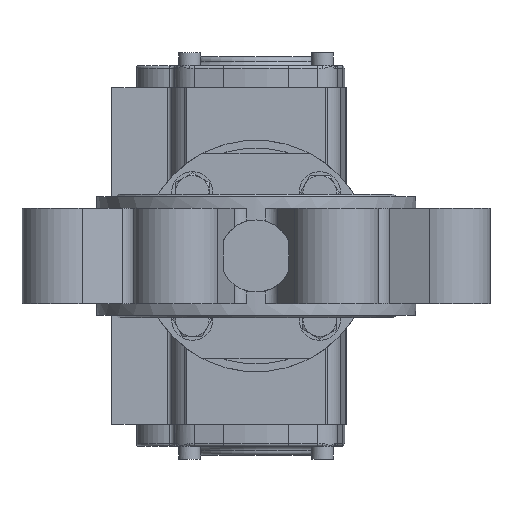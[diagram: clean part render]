
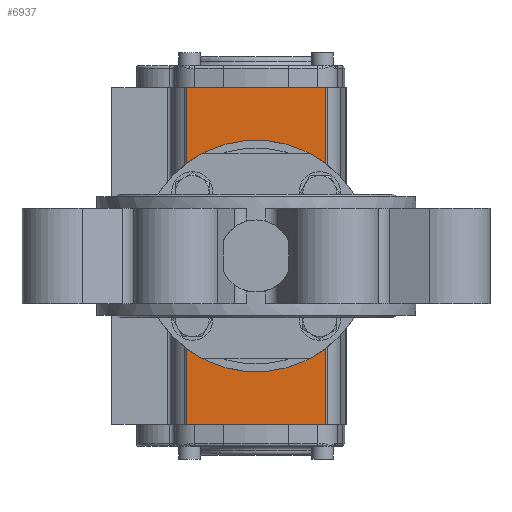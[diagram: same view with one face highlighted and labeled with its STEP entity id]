
A CAD part, front view. The second image highlights one B-rep face of the part: STEP entity #6937.
In plain terms, the highlighted planar face has unit normal (0, -1, 0).
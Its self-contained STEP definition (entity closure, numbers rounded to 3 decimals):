
#19 = ORIENTED_EDGE ( 'NONE', *, *, #25072, .F. ) ;
#23 = EDGE_LOOP ( 'NONE', ( #13427, #4761 ) ) ;
#330 = ORIENTED_EDGE ( 'NONE', *, *, #14986, .T. ) ;
#519 = DIRECTION ( 'NONE',  ( 0., 0., -1. ) ) ;
#550 = EDGE_CURVE ( 'NONE', #13627, #20517, #5485, .T. ) ;
#840 = DIRECTION ( 'NONE',  ( 0., 0., -1. ) ) ;
#915 = VERTEX_POINT ( 'NONE', #26447 ) ;
#1105 = AXIS2_PLACEMENT_3D ( 'NONE', #11870, #26760, #22525 ) ;
#1375 = VERTEX_POINT ( 'NONE', #20747 ) ;
#1672 = EDGE_CURVE ( 'NONE', #20517, #13627, #26656, .T. ) ;
#1771 = FACE_BOUND ( 'NONE', #7720, .T. ) ;
#2473 = EDGE_LOOP ( 'NONE', ( #5341, #16583 ) ) ;
#2726 = ORIENTED_EDGE ( 'NONE', *, *, #14037, .F. ) ;
#2741 = VERTEX_POINT ( 'NONE', #25272 ) ;
#2746 = DIRECTION ( 'NONE',  ( 0., -1., 0. ) ) ;
#2839 = CARTESIAN_POINT ( 'NONE',  ( 0., -45., 15. ) ) ;
#2889 = DIRECTION ( 'NONE',  ( 0., -1., 0. ) ) ;
#2985 = CARTESIAN_POINT ( 'NONE',  ( 17.678, -45., 20.178 ) ) ;
#3510 = CARTESIAN_POINT ( 'NONE',  ( 0., -45., 0. ) ) ;
#4108 = CIRCLE ( 'NONE', #26979, 2.5 ) ;
#4175 = DIRECTION ( 'NONE',  ( -1., 0., 0. ) ) ;
#4761 = ORIENTED_EDGE ( 'NONE', *, *, #1672, .F. ) ;
#5341 = ORIENTED_EDGE ( 'NONE', *, *, #6991, .F. ) ;
#5427 = DIRECTION ( 'NONE',  ( 0., -1., 0. ) ) ;
#5485 = CIRCLE ( 'NONE', #26119, 2.5 ) ;
#5651 = VECTOR ( 'NONE', #4175, 1000. ) ;
#5686 = DIRECTION ( 'NONE',  ( 0., 0., 1. ) ) ;
#5792 = AXIS2_PLACEMENT_3D ( 'NONE', #10900, #2889, #11034 ) ;
#5842 = VERTEX_POINT ( 'NONE', #20702 ) ;
#5853 = AXIS2_PLACEMENT_3D ( 'NONE', #3510, #7722, #18687 ) ;
#6774 = AXIS2_PLACEMENT_3D ( 'NONE', #23351, #12672, #10425 ) ;
#6937 = ADVANCED_FACE ( 'NONE', ( #20977, #16227, #1771, #10311, #20843, #18894 ), #27437, .F. ) ;
#6991 = EDGE_CURVE ( 'NONE', #9559, #15937, #11867, .T. ) ;
#7477 = AXIS2_PLACEMENT_3D ( 'NONE', #20048, #5427, #840 ) ;
#7697 = CIRCLE ( 'NONE', #5853, 15. ) ;
#7720 = EDGE_LOOP ( 'NONE', ( #19, #16786 ) ) ;
#7722 = DIRECTION ( 'NONE',  ( 0., -1., 0. ) ) ;
#8124 = EDGE_LOOP ( 'NONE', ( #21885, #10678 ) ) ;
#8428 = VERTEX_POINT ( 'NONE', #9630 ) ;
#8470 = DIRECTION ( 'NONE',  ( 0., -1., 0. ) ) ;
#8494 = ORIENTED_EDGE ( 'NONE', *, *, #24390, .F. ) ;
#9559 = VERTEX_POINT ( 'NONE', #18892 ) ;
#9630 = CARTESIAN_POINT ( 'NONE',  ( -17.678, -45., -20.178 ) ) ;
#10311 = FACE_BOUND ( 'NONE', #23, .T. ) ;
#10425 = DIRECTION ( 'NONE',  ( 0., 0., -1. ) ) ;
#10507 = DIRECTION ( 'NONE',  ( 0., 0., -1. ) ) ;
#10678 = ORIENTED_EDGE ( 'NONE', *, *, #24357, .F. ) ;
#10900 = CARTESIAN_POINT ( 'NONE',  ( -17.678, -45., -17.678 ) ) ;
#11034 = DIRECTION ( 'NONE',  ( 0., 0., -1. ) ) ;
#11379 = EDGE_CURVE ( 'NONE', #5842, #21204, #12189, .T. ) ;
#11611 = VERTEX_POINT ( 'NONE', #25635 ) ;
#11761 = EDGE_LOOP ( 'NONE', ( #330, #22935, #2726, #15636 ) ) ;
#11867 = CIRCLE ( 'NONE', #16835, 2.5 ) ;
#11870 = CARTESIAN_POINT ( 'NONE',  ( 17.678, -45., 17.678 ) ) ;
#11997 = DIRECTION ( 'NONE',  ( 0., 0., -1. ) ) ;
#12085 = VERTEX_POINT ( 'NONE', #2839 ) ;
#12189 = LINE ( 'NONE', #14313, #5651 ) ;
#12672 = DIRECTION ( 'NONE',  ( 0., -1., 0. ) ) ;
#12843 = CIRCLE ( 'NONE', #7477, 2.5 ) ;
#13427 = ORIENTED_EDGE ( 'NONE', *, *, #550, .F. ) ;
#13627 = VERTEX_POINT ( 'NONE', #25113 ) ;
#14026 = LINE ( 'NONE', #18819, #20563 ) ;
#14037 = EDGE_CURVE ( 'NONE', #5842, #1375, #15978, .T. ) ;
#14313 = CARTESIAN_POINT ( 'NONE',  ( 65.45, -45., 27. ) ) ;
#14476 = EDGE_CURVE ( 'NONE', #15937, #9559, #14828, .T. ) ;
#14828 = CIRCLE ( 'NONE', #6774, 2.5 ) ;
#14986 = EDGE_CURVE ( 'NONE', #21204, #15824, #27290, .T. ) ;
#15496 = EDGE_CURVE ( 'NONE', #12085, #11611, #7697, .T. ) ;
#15636 = ORIENTED_EDGE ( 'NONE', *, *, #11379, .T. ) ;
#15824 = VERTEX_POINT ( 'NONE', #25191 ) ;
#15937 = VERTEX_POINT ( 'NONE', #22350 ) ;
#15978 = LINE ( 'NONE', #16110, #21511 ) ;
#16110 = CARTESIAN_POINT ( 'NONE',  ( 65.45, -45., 27. ) ) ;
#16120 = CIRCLE ( 'NONE', #5792, 2.5 ) ;
#16227 = FACE_BOUND ( 'NONE', #8124, .T. ) ;
#16355 = CARTESIAN_POINT ( 'NONE',  ( -65.45, -45., 27. ) ) ;
#16362 = DIRECTION ( 'NONE',  ( 0., -1., 0. ) ) ;
#16583 = ORIENTED_EDGE ( 'NONE', *, *, #14476, .F. ) ;
#16780 = CARTESIAN_POINT ( 'NONE',  ( 65.45, -45., 27. ) ) ;
#16786 = ORIENTED_EDGE ( 'NONE', *, *, #23203, .F. ) ;
#16835 = AXIS2_PLACEMENT_3D ( 'NONE', #27019, #16362, #11997 ) ;
#18226 = DIRECTION ( 'NONE',  ( 0., 0., -1. ) ) ;
#18479 = DIRECTION ( 'NONE',  ( 0., 1., 0. ) ) ;
#18687 = DIRECTION ( 'NONE',  ( 0., 0., 1. ) ) ;
#18819 = CARTESIAN_POINT ( 'NONE',  ( 65.45, -45., -27. ) ) ;
#18892 = CARTESIAN_POINT ( 'NONE',  ( 17.678, -45., -20.178 ) ) ;
#18894 = FACE_OUTER_BOUND ( 'NONE', #11761, .T. ) ;
#18960 = DIRECTION ( 'NONE',  ( 0., -1., 0. ) ) ;
#19483 = VERTEX_POINT ( 'NONE', #27464 ) ;
#19859 = DIRECTION ( 'NONE',  ( 0., 0., 1. ) ) ;
#20048 = CARTESIAN_POINT ( 'NONE',  ( -17.678, -45., 17.678 ) ) ;
#20517 = VERTEX_POINT ( 'NONE', #2985 ) ;
#20563 = VECTOR ( 'NONE', #27220, 1000. ) ;
#20644 = CIRCLE ( 'NONE', #25578, 2.5 ) ;
#20667 = VECTOR ( 'NONE', #27568, 1000. ) ;
#20702 = CARTESIAN_POINT ( 'NONE',  ( 65.45, -45., 27. ) ) ;
#20747 = CARTESIAN_POINT ( 'NONE',  ( 65.45, -45., -27. ) ) ;
#20843 = FACE_BOUND ( 'NONE', #21356, .T. ) ;
#20977 = FACE_BOUND ( 'NONE', #2473, .T. ) ;
#21204 = VERTEX_POINT ( 'NONE', #25820 ) ;
#21356 = EDGE_LOOP ( 'NONE', ( #25557, #8494 ) ) ;
#21362 = DIRECTION ( 'NONE',  ( 0., 0., -1. ) ) ;
#21511 = VECTOR ( 'NONE', #18226, 1000. ) ;
#21885 = ORIENTED_EDGE ( 'NONE', *, *, #22672, .F. ) ;
#21952 = EDGE_CURVE ( 'NONE', #1375, #15824, #14026, .T. ) ;
#22350 = CARTESIAN_POINT ( 'NONE',  ( 17.678, -45., -15.178 ) ) ;
#22363 = CARTESIAN_POINT ( 'NONE',  ( 0., -45., 0. ) ) ;
#22480 = CIRCLE ( 'NONE', #25665, 15. ) ;
#22525 = DIRECTION ( 'NONE',  ( 0., 0., -1. ) ) ;
#22672 = EDGE_CURVE ( 'NONE', #8428, #915, #16120, .T. ) ;
#22935 = ORIENTED_EDGE ( 'NONE', *, *, #21952, .F. ) ;
#23203 = EDGE_CURVE ( 'NONE', #19483, #2741, #20644, .T. ) ;
#23351 = CARTESIAN_POINT ( 'NONE',  ( 17.678, -45., -17.678 ) ) ;
#24357 = EDGE_CURVE ( 'NONE', #915, #8428, #4108, .T. ) ;
#24390 = EDGE_CURVE ( 'NONE', #11611, #12085, #22480, .T. ) ;
#25072 = EDGE_CURVE ( 'NONE', #2741, #19483, #12843, .T. ) ;
#25113 = CARTESIAN_POINT ( 'NONE',  ( 17.678, -45., 15.178 ) ) ;
#25191 = CARTESIAN_POINT ( 'NONE',  ( -65.45, -45., -27. ) ) ;
#25272 = CARTESIAN_POINT ( 'NONE',  ( -17.678, -45., 15.178 ) ) ;
#25557 = ORIENTED_EDGE ( 'NONE', *, *, #15496, .F. ) ;
#25578 = AXIS2_PLACEMENT_3D ( 'NONE', #27498, #18960, #10507 ) ;
#25589 = CARTESIAN_POINT ( 'NONE',  ( 17.678, -45., 17.678 ) ) ;
#25635 = CARTESIAN_POINT ( 'NONE',  ( 0., -45., -15. ) ) ;
#25665 = AXIS2_PLACEMENT_3D ( 'NONE', #22363, #2746, #19859 ) ;
#25820 = CARTESIAN_POINT ( 'NONE',  ( -65.45, -45., 27. ) ) ;
#26050 = DIRECTION ( 'NONE',  ( 0., -1., 0. ) ) ;
#26119 = AXIS2_PLACEMENT_3D ( 'NONE', #25589, #8470, #21362 ) ;
#26447 = CARTESIAN_POINT ( 'NONE',  ( -17.678, -45., -15.178 ) ) ;
#26592 = CARTESIAN_POINT ( 'NONE',  ( -17.678, -45., -17.678 ) ) ;
#26656 = CIRCLE ( 'NONE', #1105, 2.5 ) ;
#26683 = AXIS2_PLACEMENT_3D ( 'NONE', #16780, #18479, #5686 ) ;
#26760 = DIRECTION ( 'NONE',  ( 0., -1., 0. ) ) ;
#26979 = AXIS2_PLACEMENT_3D ( 'NONE', #26592, #26050, #519 ) ;
#27019 = CARTESIAN_POINT ( 'NONE',  ( 17.678, -45., -17.678 ) ) ;
#27220 = DIRECTION ( 'NONE',  ( -1., 0., 0. ) ) ;
#27290 = LINE ( 'NONE', #16355, #20667 ) ;
#27437 = PLANE ( 'NONE',  #26683 ) ;
#27464 = CARTESIAN_POINT ( 'NONE',  ( -17.678, -45., 20.178 ) ) ;
#27498 = CARTESIAN_POINT ( 'NONE',  ( -17.678, -45., 17.678 ) ) ;
#27568 = DIRECTION ( 'NONE',  ( 0., 0., -1. ) ) ;
